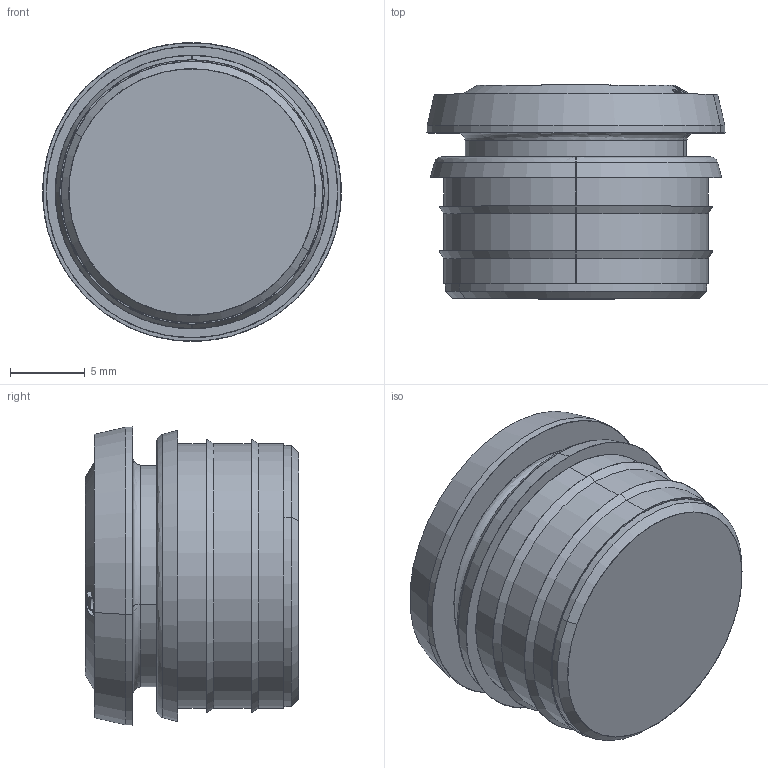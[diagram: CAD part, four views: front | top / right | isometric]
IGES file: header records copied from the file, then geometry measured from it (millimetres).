
Start section: SolidWorks IGES file using analytic representation for surfaces
Global section: file name: K:\Disegni Esecutivi\Serie 55000\55800\55800R\ASSIEMI_PIENI_55800R\5580000006.IGS; native system: SolidWorks 2007; preprocessor: SolidWorks 2007; author: cad02; date: 071015.105958; units: millimetre
Bounding box: 19.99 x 14.3 x 19.99 mm (x, y, z)
Surface area: 2241.4 mm2 (no closed solid volume)
Topology: 0 solids, 0 shells, 120 faces, 1418 edges, 1418 vertices
Faces by surface type: bspline 73, revolution 47
